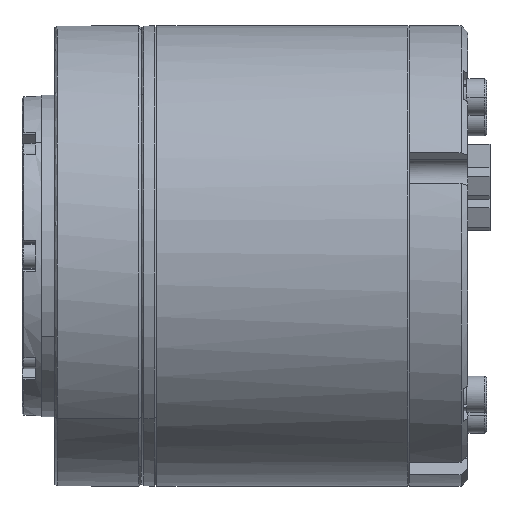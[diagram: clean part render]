
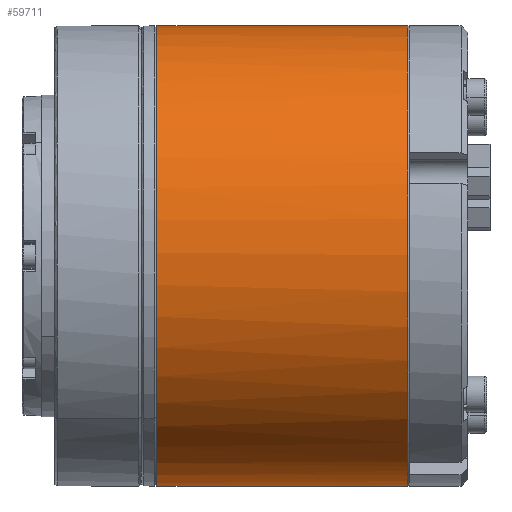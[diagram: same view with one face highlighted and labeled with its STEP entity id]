
A CAD part, front view. The second image highlights one B-rep face of the part: STEP entity #59711.
In plain terms, the highlighted cylindrical face has radius 35 mm (diameter 70 mm), a partial arc.
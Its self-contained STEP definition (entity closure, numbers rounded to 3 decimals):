
#238 = CARTESIAN_POINT ( 'NONE',  ( 26.519, 1.046, -35. ) ) ;
#1079 = CARTESIAN_POINT ( 'NONE',  ( 64.619, -30.206, 15.759 ) ) ;
#1465 = CARTESIAN_POINT ( 'NONE',  ( 26.519, 1.046, -35. ) ) ;
#4894 = VERTEX_POINT ( 'NONE', #47975 ) ;
#5506 = CARTESIAN_POINT ( 'NONE',  ( 26.519, -29.328, 17.54 ) ) ;
#7172 = CARTESIAN_POINT ( 'NONE',  ( 64.619, 1.046, 0. ) ) ;
#7531 = CARTESIAN_POINT ( 'NONE',  ( 26.519, -10.232, -33.212 ) ) ;
#7746 = DIRECTION ( 'NONE',  ( 0., 0., -1. ) ) ;
#8611 = ORIENTED_EDGE ( 'NONE', *, *, #46229, .T. ) ;
#8752 = VERTEX_POINT ( 'NONE', #38722 ) ;
#12283 = CARTESIAN_POINT ( 'NONE',  ( 26.519, -22.083, 26.369 ) ) ;
#12740 = CARTESIAN_POINT ( 'NONE',  ( 64.619, 1.046, 35. ) ) ;
#13809 = AXIS2_PLACEMENT_3D ( 'NONE', #94557, #95070, #71187 ) ;
#14923 = CIRCLE ( 'NONE', #68007, 35. ) ;
#16884 = DIRECTION ( 'NONE',  ( 0., 0., -1. ) ) ;
#17049 = CARTESIAN_POINT ( 'NONE',  ( 39.219, 1.046, -35. ) ) ;
#19146 = ORIENTED_EDGE ( 'NONE', *, *, #19201, .T. ) ;
#19201 = EDGE_CURVE ( 'NONE', #58090, #49000, #99988, .T. ) ;
#19692 = CARTESIAN_POINT ( 'NONE',  ( 26.519, 1.046, 35. ) ) ;
#19975 = CARTESIAN_POINT ( 'NONE',  ( 51.919, 1.046, 35. ) ) ;
#20584 = CARTESIAN_POINT ( 'NONE',  ( 26.519, 1.046, 0. ) ) ;
#21564 = CARTESIAN_POINT ( 'NONE',  ( 26.519, -20.304, 27.829 ) ) ;
#22080 = CARTESIAN_POINT ( 'NONE',  ( 26.519, -16.494, -30.374 ) ) ;
#23340 = CARTESIAN_POINT ( 'NONE',  ( 64.619, 1.046, 0. ) ) ;
#23507 = ORIENTED_EDGE ( 'NONE', *, *, #99125, .F. ) ;
#23590 = CARTESIAN_POINT ( 'NONE',  ( 26.519, -32.835, -9.075 ) ) ;
#28228 = VERTEX_POINT ( 'NONE', #71601 ) ;
#28254 = EDGE_LOOP ( 'NONE', ( #34041, #19146, #89326, #28438, #74617, #8611, #23507, #31050 ) ) ;
#28339 = DIRECTION ( 'NONE',  ( 0., 0., 1. ) ) ;
#28438 = ORIENTED_EDGE ( 'NONE', *, *, #63248, .T. ) ;
#29513 = CARTESIAN_POINT ( 'NONE',  ( 64.619, -32.196, 10.955 ) ) ;
#29809 = CARTESIAN_POINT ( 'NONE',  ( 26.519, -22.083, -26.369 ) ) ;
#30321 = CARTESIAN_POINT ( 'NONE',  ( 26.519, -14.464, -31.459 ) ) ;
#31050 = ORIENTED_EDGE ( 'NONE', *, *, #71896, .T. ) ;
#31341 = CARTESIAN_POINT ( 'NONE',  ( 26.519, -25.323, -23.129 ) ) ;
#31860 = CARTESIAN_POINT ( 'NONE',  ( 26.519, -20.304, -27.829 ) ) ;
#32573 = CARTESIAN_POINT ( 'NONE',  ( 51.919, 1.046, -35. ) ) ;
#33091 = AXIS2_PLACEMENT_3D ( 'NONE', #23340, #53481, #62319 ) ;
#34041 = ORIENTED_EDGE ( 'NONE', *, *, #96843, .F. ) ;
#37108 = CARTESIAN_POINT ( 'NONE',  ( 26.519, -30.413, 15.51 ) ) ;
#38115 = CARTESIAN_POINT ( 'NONE',  ( 26.519, -30.413, -15.51 ) ) ;
#38722 = CARTESIAN_POINT ( 'NONE',  ( 64.619, -14.713, -31.251 ) ) ;
#39139 = CARTESIAN_POINT ( 'NONE',  ( 26.519, -33.729, -4.581 ) ) ;
#39827 = AXIS2_PLACEMENT_3D ( 'NONE', #7172, #101144, #69977 ) ;
#43394 = CARTESIAN_POINT ( 'NONE',  ( 26.519, 1.046, 35. ) ) ;
#43908 = CARTESIAN_POINT ( 'NONE',  ( 26.519, -25.323, 23.129 ) ) ;
#44912 = CARTESIAN_POINT ( 'NONE',  ( 26.519, -16.494, 30.374 ) ) ;
#45422 = CARTESIAN_POINT ( 'NONE',  ( 26.519, -33.954, 2.291 ) ) ;
#46229 = EDGE_CURVE ( 'NONE', #65943, #28228, #99626, .T. ) ;
#47975 = CARTESIAN_POINT ( 'NONE',  ( 26.519, 1.046, -35. ) ) ;
#49000 = VERTEX_POINT ( 'NONE', #65208 ) ;
#52712 = CARTESIAN_POINT ( 'NONE',  ( 26.519, -10.232, 33.212 ) ) ;
#53256 = DIRECTION ( 'NONE',  ( 1., 0., 0. ) ) ;
#53481 = DIRECTION ( 'NONE',  ( -1., 0., 0. ) ) ;
#54236 = VERTEX_POINT ( 'NONE', #29513 ) ;
#56312 = CARTESIAN_POINT ( 'NONE',  ( 64.619, 1.046, 0. ) ) ;
#58090 = VERTEX_POINT ( 'NONE', #67561 ) ;
#58171 = AXIS2_PLACEMENT_3D ( 'NONE', #78841, #70536, #7746 ) ;
#58999 = CARTESIAN_POINT ( 'NONE',  ( 26.519, -14.464, 31.459 ) ) ;
#59474 = EDGE_CURVE ( 'NONE', #54236, #65943, #59753, .T. ) ;
#59711 = ADVANCED_FACE ( 'NONE', ( #99491 ), #67849, .T. ) ;
#59753 = CIRCLE ( 'NONE', #39827, 35. ) ;
#62319 = DIRECTION ( 'NONE',  ( 0., 0., -1. ) ) ;
#62546 = CARTESIAN_POINT ( 'NONE',  ( 26.519, -3.536, -34.774 ) ) ;
#63248 = EDGE_CURVE ( 'NONE', #8752, #54236, #77912, .T. ) ;
#63575 = CARTESIAN_POINT ( 'NONE',  ( 26.519, -26.783, -21.35 ) ) ;
#65208 = CARTESIAN_POINT ( 'NONE',  ( 64.619, -9.909, -33.241 ) ) ;
#65943 = VERTEX_POINT ( 'NONE', #1079 ) ;
#66463 = AXIS2_PLACEMENT_3D ( 'NONE', #20584, #53256, #28339 ) ;
#67267 = CARTESIAN_POINT ( 'NONE',  ( 26.519, 1.046, 35. ) ) ;
#67561 = CARTESIAN_POINT ( 'NONE',  ( 64.619, 1.046, -35. ) ) ;
#67849 = CYLINDRICAL_SURFACE ( 'NONE', #66463, 35. ) ;
#68007 = AXIS2_PLACEMENT_3D ( 'NONE', #56312, #80698, #16884 ) ;
#68833 = CARTESIAN_POINT ( 'NONE',  ( 26.519, -32.835, 9.075 ) ) ;
#69977 = DIRECTION ( 'NONE',  ( 0., 0., -1. ) ) ;
#70536 = DIRECTION ( 'NONE',  ( -1., 0., 0. ) ) ;
#70838 = CARTESIAN_POINT ( 'NONE',  ( 26.519, -33.954, -2.291 ) ) ;
#71010 = B_SPLINE_CURVE_WITH_KNOTS ( 'NONE', 3,
 ( #43394, #97030, #92678, #75082, #52712, #58999, #44912, #21564, #12283, #43908, #84862, #5506, #37108, #75593, #68833, #90653, #45422, #70838, #39139, #23590, #93195, #38115, #102510, #63575, #31341, #29809, #31860, #22080, #30321, #7531, #71346, #62546, #94199, #238 ),
 .UNSPECIFIED., .F., .F.,
 ( 4, 2, 2, 2, 2, 2, 2, 2, 2, 2, 2, 2, 2, 2, 2, 2, 4 ),
 ( 0., 0.062, 0.125, 0.187, 0.25, 0.312, 0.375, 0.437, 0.5, 0.562, 0.625, 0.687, 0.75, 0.812, 0.875, 0.938, 1. ),
 .UNSPECIFIED. ) ;
#71187 = DIRECTION ( 'NONE',  ( 0., 0., -1. ) ) ;
#71346 = CARTESIAN_POINT ( 'NONE',  ( 26.519, -8.029, -33.881 ) ) ;
#71601 = CARTESIAN_POINT ( 'NONE',  ( 64.619, 1.046, 35. ) ) ;
#71896 = EDGE_CURVE ( 'NONE', #77045, #4894, #71010, .T. ) ;
#73839 = B_SPLINE_CURVE_WITH_KNOTS ( 'NONE', 3,
 ( #67267, #76035, #19975, #12740 ),
 .UNSPECIFIED., .F., .F.,
 ( 4, 4 ),
 ( 0., 0.995 ),
 .UNSPECIFIED. ) ;
#74269 = EDGE_CURVE ( 'NONE', #49000, #8752, #14923, .T. ) ;
#74617 = ORIENTED_EDGE ( 'NONE', *, *, #59474, .T. ) ;
#75082 = CARTESIAN_POINT ( 'NONE',  ( 26.519, -8.029, 33.881 ) ) ;
#75593 = CARTESIAN_POINT ( 'NONE',  ( 26.519, -32.167, 11.278 ) ) ;
#76035 = CARTESIAN_POINT ( 'NONE',  ( 39.219, 1.046, 35. ) ) ;
#77045 = VERTEX_POINT ( 'NONE', #19692 ) ;
#77912 = CIRCLE ( 'NONE', #33091, 35. ) ;
#78841 = CARTESIAN_POINT ( 'NONE',  ( 64.619, 1.046, 0. ) ) ;
#79837 = CARTESIAN_POINT ( 'NONE',  ( 64.619, 1.046, -35. ) ) ;
#80698 = DIRECTION ( 'NONE',  ( -1., 0., 0. ) ) ;
#84862 = CARTESIAN_POINT ( 'NONE',  ( 26.519, -26.783, 21.35 ) ) ;
#85507 = B_SPLINE_CURVE_WITH_KNOTS ( 'NONE', 3,
 ( #79837, #32573, #17049, #1465 ),
 .UNSPECIFIED., .F., .F.,
 ( 4, 4 ),
 ( 0.005, 1. ),
 .UNSPECIFIED. ) ;
#89326 = ORIENTED_EDGE ( 'NONE', *, *, #74269, .T. ) ;
#90653 = CARTESIAN_POINT ( 'NONE',  ( 26.519, -33.729, 4.581 ) ) ;
#92678 = CARTESIAN_POINT ( 'NONE',  ( 26.519, -3.536, 34.774 ) ) ;
#93195 = CARTESIAN_POINT ( 'NONE',  ( 26.519, -32.167, -11.278 ) ) ;
#94199 = CARTESIAN_POINT ( 'NONE',  ( 26.519, -1.245, -35. ) ) ;
#94557 = CARTESIAN_POINT ( 'NONE',  ( 64.619, 1.046, 0. ) ) ;
#95070 = DIRECTION ( 'NONE',  ( -1., 0., 0. ) ) ;
#96843 = EDGE_CURVE ( 'NONE', #58090, #4894, #85507, .T. ) ;
#97030 = CARTESIAN_POINT ( 'NONE',  ( 26.519, -1.245, 35. ) ) ;
#99125 = EDGE_CURVE ( 'NONE', #77045, #28228, #73839, .T. ) ;
#99491 = FACE_OUTER_BOUND ( 'NONE', #28254, .T. ) ;
#99626 = CIRCLE ( 'NONE', #58171, 35. ) ;
#99988 = CIRCLE ( 'NONE', #13809, 35. ) ;
#101144 = DIRECTION ( 'NONE',  ( -1., 0., 0. ) ) ;
#102510 = CARTESIAN_POINT ( 'NONE',  ( 26.519, -29.328, -17.54 ) ) ;
